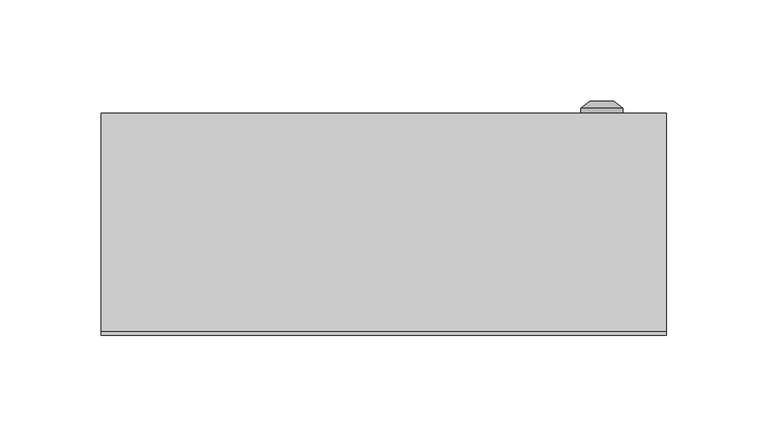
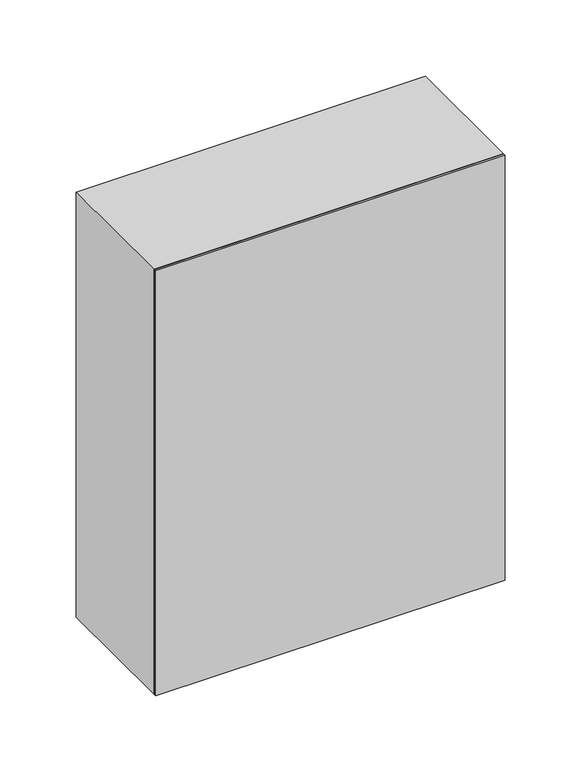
"""IFC4 building model written with IfcOpenShell, lengths in millimetres: proxy geometry, ЩУРН-1_12Э : ЩУРН-1/12Э."""

from ifc_helpers import new_model, si_unit, point, frame, frame_2d, origin, origin_with_axes, place, context, project, spatial, polyline, circle_curve, trimmed, segment, composite_curve, outline, extrude, source, transform, mapped, element, save
from ifc_brep_helpers import plane_surface, cylinder_surface, revolved_surface, advanced_brep


def electrical_equipment_290de99c(model_context):
    return source(origin(), model_context, "Body", "SolidModel", [
        advanced_brep(
        [(97.669873, 110.0, 180.0), (118.330127, 110.0, 180.0), (108.0, 110.0, 180.0), (106.1080471, 116.0, 180.0), (109.8919529, 116.0, 180.0), (114.0, 116.0, 180.0), (102.0, 116.0, 180.0), (106.1080471, 114.9822294, 180.0), (109.8919529, 114.9822294, 180.0), (108.0, 114.9822294, 180.0), (97.669873, 112.366592, 180.0), (118.330127, 112.366592, 180.0)],
        [
            (0, 1, circle_curve(frame((108.0, 110.0, 180.0), z_axis=(0.0, -1.0, 0.0), x_axis=(1.0, 0.0, 0.0)), 10.330127)),
            (1, 2),
            (2, 0),
            (1, 0, circle_curve(frame((108.0, 110.0, 180.0), z_axis=(0.0, -1.0, 0.0), x_axis=(1.0, 0.0, 0.0)), 10.330127)),
            (3, 4, circle_curve(frame((108.0, 116.0, 180.0), z_axis=(0.0, -1.0, 0.0), x_axis=(1.0, 0.0, 0.0)), 1.8919529)),
            (4, 5),
            (5, 6, circle_curve(frame((108.0, 116.0, 180.0), z_axis=(0.0, 1.0, 0.0), x_axis=(1.0, 0.0, 0.0)), 6.0)),
            (6, 3),
            (4, 3, circle_curve(frame((108.0, 116.0, 180.0), z_axis=(0.0, -1.0, 0.0), x_axis=(1.0, 0.0, 0.0)), 1.8919529)),
            (6, 5, circle_curve(frame((108.0, 116.0, 180.0), z_axis=(0.0, 1.0, 0.0), x_axis=(1.0, 0.0, 0.0)), 6.0)),
            (7, 8, circle_curve(frame((108.0, 114.9822294, 180.0), z_axis=(0.0, -1.0, 0.0), x_axis=(1.0, 0.0, 0.0)), 1.8919529)),
            (8, 4),
            (3, 7),
            (8, 7, circle_curve(frame((108.0, 114.9822294, 180.0), z_axis=(0.0, -1.0, 0.0), x_axis=(1.0, 0.0, 0.0)), 1.8919529)),
            (9, 8),
            (7, 9),
            (10, 11, circle_curve(frame((108.0, 112.366592, 180.0), z_axis=(0.0, -1.0, 0.0), x_axis=(1.0, 0.0, 0.0)), 10.330127)),
            (11, 1),
            (0, 10),
            (11, 10, circle_curve(frame((108.0, 112.366592, 180.0), z_axis=(0.0, -1.0, 0.0), x_axis=(1.0, 0.0, 0.0)), 10.330127)),
            (5, 11),
            (10, 6),
        ],
        [
            plane_surface(frame((108.0, 110.0, 180.0), z_axis=(0.0, -1.0, 0.0), x_axis=(1.0, 0.0, 0.0))),
            plane_surface(frame((108.0, 116.0, 180.0), z_axis=(0.0, 1.0, 0.0), x_axis=(1.0, 0.0, 0.0))),
            revolved_surface(polyline([(109.8919529, 116.0, 180.0), (109.8919529, 114.9822294, 180.0)]), (108.0, 123.1348851, 180.0), (0.0, 1.0, 0.0)),
            plane_surface(frame((108.0, 114.9822294, 180.0), z_axis=(0.0, 1.0, 0.0), x_axis=(1.0, 0.0, 0.0))),
            cylinder_surface(frame((108.0, 123.1348851, 180.0), z_axis=(0.0, 1.0, 0.0), x_axis=(1.0, 0.0, 0.0)), 10.330127),
            revolved_surface(polyline([(118.330127, 112.366592, 180.0), (114.0, 116.0, 180.0)]), (108.0, 123.1348851, 180.0), (0.0, 1.0, 0.0)),
        ],
        [
            (0, [[1, 2, 3]]),
            (0, [[4, -3, -2]]),
            (1, [[5, 6, 7, 8]]),
            (1, [[9, -8, 10, -6]]),
            (2, [[11, 12, -5, 13]]),
            (2, [[14, -13, -9, -12]]),
            (3, [[15, -11, 16]]),
            (3, [[-16, -14, -15]]),
            (4, [[17, 18, -1, 19]]),
            (4, [[20, -19, -4, -18]]),
            (5, [[-7, 21, -17, 22]]),
            (5, [[-10, -22, -20, -21]]),
        ],
    ),
        extrude(outline(polyline([(344.0, -124.0), (16.0, -124.0), (16.0, 124.0), (344.0, 124.0), (344.0, -124.0)]), holes=[composite_curve([segment(polyline([(297.5, -40.0), (297.5, -10.0), (297.5, 20.0)]), True, "CONTINUOUS"), segment(trimmed(circle_curve(frame_2d((287.5, 20.0)), 10.0), [point((297.5, 20.0))], [point((287.5, 30.0))], True, "CARTESIAN"), True, "CONTINUOUS"), segment(polyline([(287.5, 30.0), (257.5, 30.0)]), True, "CONTINUOUS"), segment(trimmed(circle_curve(frame_2d((257.5, 20.0)), 10.0), [point((257.5, 30.0))], [point((247.5, 20.0))], True, "CARTESIAN"), True, "CONTINUOUS"), segment(polyline([(247.5, 20.0), (247.5, -40.0)]), True, "CONTINUOUS"), segment(trimmed(circle_curve(frame_2d((257.5, -40.0)), 10.0), [point((247.5, -40.0))], [point((257.5, -50.0))], True, "CARTESIAN"), True, "CONTINUOUS"), segment(polyline([(257.5, -50.0), (287.5, -50.0)]), True, "CONTINUOUS"), segment(trimmed(circle_curve(frame_2d((287.5, -40.0)), 10.0), [point((287.5, -50.0))], [point((297.5, -40.0))], True, "CARTESIAN"), True, "CONTINUOUS")], self_intersect=False)]), frame((0.0, 108.0, 0.0), z_axis=(0.0, 1.0, 0.0), x_axis=(0.0, 0.0, 1.0)), (0.0, 0.0, 1.0), 2.0),
        extrude(outline(polyline([(360.0, -140.0033905), (0.0, -140.0033905), (0.0, 139.9966095), (360.0, 139.9966095), (360.0, -140.0033905)]), holes=[polyline([(345.0, -125.0), (345.0, 125.0), (15.0, 125.0), (15.0, -125.0), (345.0, -125.0)])]), frame((0.0, 2.0, 0.0), z_axis=(0.0, 1.0, 0.0), x_axis=(0.0, 0.0, 1.0)), (0.0, 0.0, 1.0), 108.0),
        extrude(outline(polyline([(140.0, 0.0), (-140.0, 0.0), (-140.0, 2.0), (140.0, 2.0), (140.0, 0.0)])), origin_with_axes(), (0.0, 0.0, 1.0), 360.0),
    ])


if __name__ == "__main__":
    model = new_model("IFC4")
    model_context = context("Model", 3, world=origin())
    ifc_project = project(units=[si_unit("LENGTHUNIT", "METRE", prefix="MILLI")], contexts=[model_context])
    site = spatial("IfcSite", under=ifc_project)
    building = spatial("IfcBuilding", under=site)
    placement = place(None, origin())
    electrical_equipment_shape = electrical_equipment_290de99c(model_context)
    element("IfcBuildingElementProxy", 1, Name="ЩУРН-1_12Э : ЩУРН-1/12Э", ObjectType="ЩУРН-1_12Э : ЩУРН-1/12Э", at=placement, inside=building, context=model_context, shape_type="MappedRepresentation", body=[
        mapped(electrical_equipment_shape, transform((0.0, 0.0, 0.0), x_axis=(1.0, 0.0, 0.0), y_axis=(0.0, 1.0, 0.0), z_axis=(0.0, 0.0, 1.0))),
    ])
    save(model, "model.ifc")
